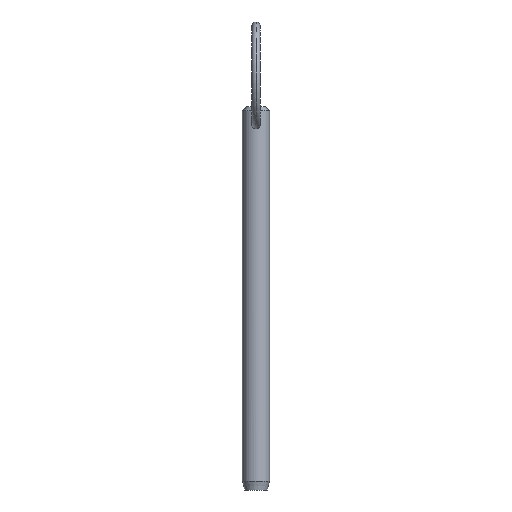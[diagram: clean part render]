
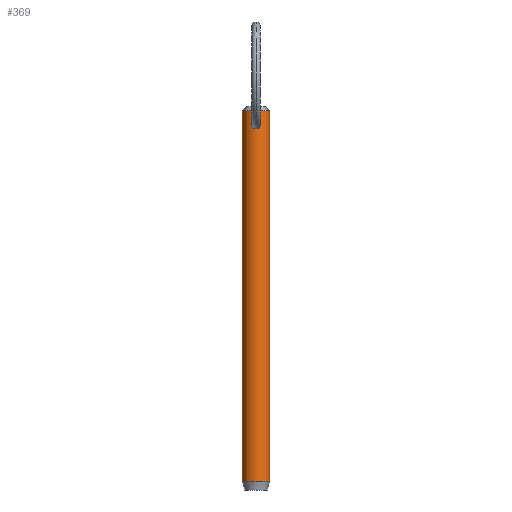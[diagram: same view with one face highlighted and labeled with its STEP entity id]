
A CAD part, front view. The second image highlights one B-rep face of the part: STEP entity #369.
In plain terms, the highlighted cylindrical face has radius 3.175 mm (diameter 6.35 mm), a partial arc.
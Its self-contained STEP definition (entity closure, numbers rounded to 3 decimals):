
#8 = ORIENTED_EDGE ( 'NONE', *, *, #446, .T. ) ;
#19 = CARTESIAN_POINT ( 'NONE',  ( 0.515, -3.135, 76.73 ) ) ;
#23 = CARTESIAN_POINT ( 'NONE',  ( 1.004, -3.012, 77.493 ) ) ;
#26 = ORIENTED_EDGE ( 'NONE', *, *, #357, .T. ) ;
#30 = CARTESIAN_POINT ( 'NONE',  ( -0.328, -3.159, 78.621 ) ) ;
#38 = DIRECTION ( 'NONE',  ( 0., 0., -1. ) ) ;
#40 = VECTOR ( 'NONE', #141, 1000. ) ;
#45 = VERTEX_POINT ( 'NONE', #290 ) ;
#48 = ORIENTED_EDGE ( 'NONE', *, *, #305, .T. ) ;
#49 = CARTESIAN_POINT ( 'NONE',  ( -0.134, -3.175, 76.603 ) ) ;
#58 = CARTESIAN_POINT ( 'NONE',  ( 0.51, -3.136, 78.534 ) ) ;
#61 = DIRECTION ( 'NONE',  ( -1., 0., 0. ) ) ;
#69 = CARTESIAN_POINT ( 'NONE',  ( -0.991, -3.016, 77.896 ) ) ;
#72 = VERTEX_POINT ( 'NONE', #178 ) ;
#76 = EDGE_CURVE ( 'NONE', #409, #345, #123, .T. ) ;
#82 = VERTEX_POINT ( 'NONE', #226 ) ;
#87 = AXIS2_PLACEMENT_3D ( 'NONE', #122, #191, #405 ) ;
#105 = EDGE_CURVE ( 'NONE', #45, #409, #313, .T. ) ;
#122 = CARTESIAN_POINT ( 'NONE',  ( 0., 0., -5.92 ) ) ;
#123 = CIRCLE ( 'NONE', #87, 3.175 ) ;
#126 = DIRECTION ( 'NONE',  ( 1., 0., 0. ) ) ;
#132 = CARTESIAN_POINT ( 'NONE',  ( 0.982, -3.02, 77.358 ) ) ;
#141 = DIRECTION ( 'NONE',  ( 0., 0., -1. ) ) ;
#143 = CARTESIAN_POINT ( 'NONE',  ( -0.815, -3.07, 76.995 ) ) ;
#147 = CARTESIAN_POINT ( 'NONE',  ( -0.629, -3.114, 76.805 ) ) ;
#149 = ORIENTED_EDGE ( 'NONE', *, *, #76, .T. ) ;
#167 = LINE ( 'NONE', #392, #40 ) ;
#177 = CARTESIAN_POINT ( 'NONE',  ( 0.269, -3.166, 78.65 ) ) ;
#178 = CARTESIAN_POINT ( 'NONE',  ( 0., -3.175, 78.682 ) ) ;
#180 = CARTESIAN_POINT ( 'NONE',  ( 0., -3.175, 76.603 ) ) ;
#183 = ORIENTED_EDGE ( 'NONE', *, *, #397, .F. ) ;
#185 = CARTESIAN_POINT ( 'NONE',  ( -0.615, -3.116, 78.453 ) ) ;
#191 = DIRECTION ( 'NONE',  ( 0., 0., 1. ) ) ;
#200 = AXIS2_PLACEMENT_3D ( 'NONE', #211, #208, #61 ) ;
#201 = CARTESIAN_POINT ( 'NONE',  ( 0., 0., 80.78 ) ) ;
#206 = VECTOR ( 'NONE', #38, 1000. ) ;
#208 = DIRECTION ( 'NONE',  ( 0., 0., -1. ) ) ;
#211 = CARTESIAN_POINT ( 'NONE',  ( 0., 0., 76.2 ) ) ;
#214 = CARTESIAN_POINT ( 'NONE',  ( -3.175, 0., -5.92 ) ) ;
#217 = CARTESIAN_POINT ( 'NONE',  ( -0.508, -3.136, 78.535 ) ) ;
#219 = B_SPLINE_CURVE_WITH_KNOTS ( 'NONE', 3,
 ( #180, #49, #321, #437, #147, #143, #259, #297, #329, #69, #399, #185, #217, #30, #328, #255, #222, #433 ),
 .UNSPECIFIED., .F., .F.,
 ( 4, 2, 2, 2, 2, 2, 2, 2, 4 ),
 ( 0.006, 0.006, 0.007, 0.007, 0.008, 0.008, 0.009, 0.009, 0.009 ),
 .UNSPECIFIED. ) ;
#222 = CARTESIAN_POINT ( 'NONE',  ( -0.067, -3.175, 78.682 ) ) ;
#224 = CYLINDRICAL_SURFACE ( 'NONE', #200, 3.175 ) ;
#226 = CARTESIAN_POINT ( 'NONE',  ( 0., -3.175, 76.603 ) ) ;
#229 = CIRCLE ( 'NONE', #410, 3.175 ) ;
#240 = CARTESIAN_POINT ( 'NONE',  ( 0.617, -3.116, 78.451 ) ) ;
#243 = CARTESIAN_POINT ( 'NONE',  ( 0., -3.175, 78.682 ) ) ;
#255 = CARTESIAN_POINT ( 'NONE',  ( -0.133, -3.173, 78.674 ) ) ;
#259 = CARTESIAN_POINT ( 'NONE',  ( -0.888, -3.049, 77.109 ) ) ;
#290 = CARTESIAN_POINT ( 'NONE',  ( -3.175, 0., 80.78 ) ) ;
#297 = CARTESIAN_POINT ( 'NONE',  ( -0.983, -3.02, 77.359 ) ) ;
#304 = VERTEX_POINT ( 'NONE', #424 ) ;
#305 = EDGE_CURVE ( 'NONE', #304, #45, #229, .T. ) ;
#313 = LINE ( 'NONE', #414, #206 ) ;
#321 = CARTESIAN_POINT ( 'NONE',  ( -0.269, -3.166, 76.629 ) ) ;
#328 = CARTESIAN_POINT ( 'NONE',  ( -0.264, -3.165, 78.644 ) ) ;
#329 = CARTESIAN_POINT ( 'NONE',  ( -1.004, -3.012, 77.495 ) ) ;
#337 = B_SPLINE_CURVE_WITH_KNOTS ( 'NONE', 3,
 ( #243, #358, #177, #58, #240, #476, #425, #23, #132, #351, #389, #469, #19, #475, #353, #354 ),
 .UNSPECIFIED., .F., .F.,
 ( 4, 2, 2, 2, 2, 2, 2, 4 ),
 ( 0.003, 0.003, 0.004, 0.004, 0.005, 0.005, 0.006, 0.006 ),
 .UNSPECIFIED. ) ;
#345 = VERTEX_POINT ( 'NONE', #385 ) ;
#351 = CARTESIAN_POINT ( 'NONE',  ( 0.888, -3.049, 77.109 ) ) ;
#353 = CARTESIAN_POINT ( 'NONE',  ( 0.134, -3.175, 76.603 ) ) ;
#354 = CARTESIAN_POINT ( 'NONE',  ( 0., -3.175, 76.603 ) ) ;
#357 = EDGE_CURVE ( 'NONE', #72, #82, #337, .T. ) ;
#358 = CARTESIAN_POINT ( 'NONE',  ( 0.134, -3.175, 78.682 ) ) ;
#369 = ADVANCED_FACE ( 'NONE', ( #472, #429 ), #224, .T. ) ;
#385 = CARTESIAN_POINT ( 'NONE',  ( 3.175, 0., -5.92 ) ) ;
#389 = CARTESIAN_POINT ( 'NONE',  ( 0.815, -3.07, 76.995 ) ) ;
#392 = CARTESIAN_POINT ( 'NONE',  ( 3.175, 0., 76.2 ) ) ;
#397 = EDGE_CURVE ( 'NONE', #304, #345, #167, .T. ) ;
#399 = CARTESIAN_POINT ( 'NONE',  ( -0.882, -3.055, 78.16 ) ) ;
#405 = DIRECTION ( 'NONE',  ( -1., 0., 0. ) ) ;
#409 = VERTEX_POINT ( 'NONE', #214 ) ;
#410 = AXIS2_PLACEMENT_3D ( 'NONE', #201, #465, #126 ) ;
#414 = CARTESIAN_POINT ( 'NONE',  ( -3.175, 0., 76.2 ) ) ;
#424 = CARTESIAN_POINT ( 'NONE',  ( 3.175, 0., 80.78 ) ) ;
#425 = CARTESIAN_POINT ( 'NONE',  ( 0.992, -3.016, 77.894 ) ) ;
#429 = FACE_BOUND ( 'NONE', #460, .T. ) ;
#433 = CARTESIAN_POINT ( 'NONE',  ( 0., -3.175, 78.682 ) ) ;
#437 = CARTESIAN_POINT ( 'NONE',  ( -0.516, -3.135, 76.731 ) ) ;
#439 = ORIENTED_EDGE ( 'NONE', *, *, #105, .T. ) ;
#443 = EDGE_LOOP ( 'NONE', ( #183, #48, #439, #149 ) ) ;
#446 = EDGE_CURVE ( 'NONE', #82, #72, #219, .T. ) ;
#460 = EDGE_LOOP ( 'NONE', ( #26, #8 ) ) ;
#465 = DIRECTION ( 'NONE',  ( 0., 0., -1. ) ) ;
#469 = CARTESIAN_POINT ( 'NONE',  ( 0.628, -3.114, 76.804 ) ) ;
#472 = FACE_OUTER_BOUND ( 'NONE', #443, .T. ) ;
#475 = CARTESIAN_POINT ( 'NONE',  ( 0.268, -3.166, 76.629 ) ) ;
#476 = CARTESIAN_POINT ( 'NONE',  ( 0.884, -3.055, 78.157 ) ) ;
